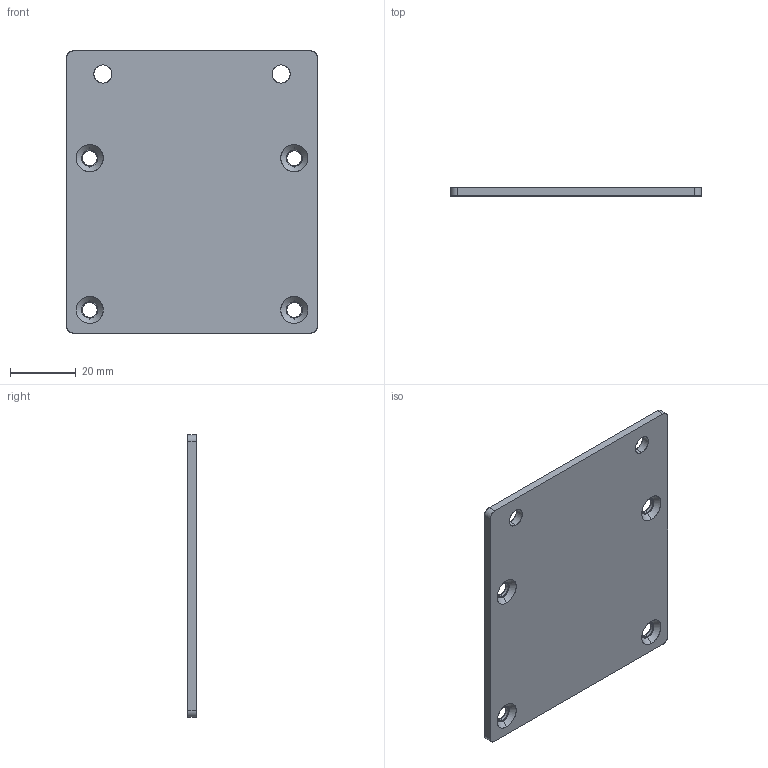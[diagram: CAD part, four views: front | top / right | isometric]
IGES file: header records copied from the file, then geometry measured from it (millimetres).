
Start section: SolidWorks IGES file using analytic representation for surfaces
Global section: file name: :\デジカラーデータ\MD Spirit 2024_SOLIDWORKS 2023\１＿インクリメンタル\1_リニアエンコーダ\4_D-1000Z\IGES\取付フランジ.IGS; native system: SolidWorks 2023; preprocessor: SolidWorks 2023; author: sunahara; date: 240617.163854; units: millimetre
Bounding box: 76 x 2.5 x 85.5 mm (x, y, z)
Surface area: 13761 mm2 (no closed solid volume)
Topology: 0 solids, 0 shells, 34 faces, 824 edges, 824 vertices
Faces by surface type: revolution 24, bspline 10
